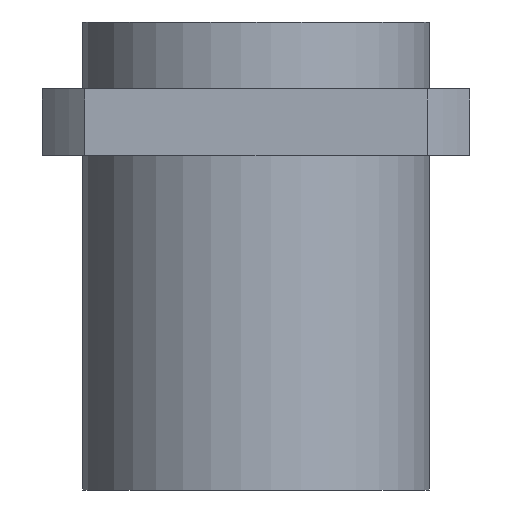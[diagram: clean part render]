
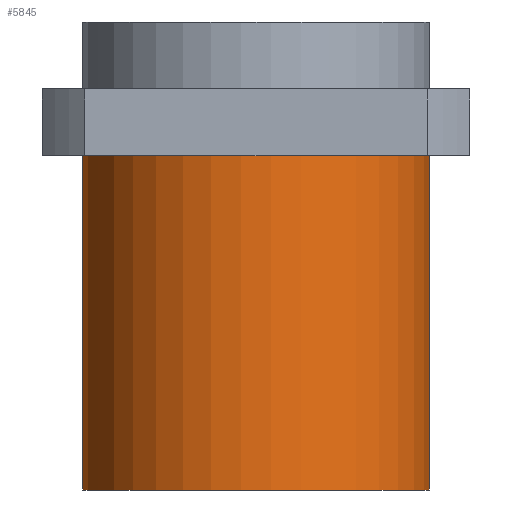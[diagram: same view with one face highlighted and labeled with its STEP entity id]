
A CAD part, front view. The second image highlights one B-rep face of the part: STEP entity #5845.
In plain terms, the highlighted cylindrical face has radius 26 mm (diameter 52 mm), a full revolution.
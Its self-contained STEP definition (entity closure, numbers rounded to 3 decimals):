
#87=CYLINDRICAL_SURFACE('',#6227,26.);
#106=CIRCLE('',#6196,26.);
#128=CIRCLE('',#6228,26.);
#560=ORIENTED_EDGE('',*,*,#2244,.T.);
#561=ORIENTED_EDGE('',*,*,#2089,.T.);
#2089=EDGE_CURVE('',#2935,#2935,#106,.F.);
#2244=EDGE_CURVE('',#3082,#3082,#128,.T.);
#2935=VERTEX_POINT('',#8590);
#3082=VERTEX_POINT('',#9320);
#4804=EDGE_LOOP('',(#560));
#4805=EDGE_LOOP('',(#561));
#5220=FACE_BOUND('',#4804,.T.);
#5221=FACE_BOUND('',#4805,.T.);
#5845=ADVANCED_FACE('',(#5220,#5221),#87,.T.);
#6196=AXIS2_PLACEMENT_3D('',#8589,#6621,#6622);
#6227=AXIS2_PLACEMENT_3D('',#9318,#6791,#6792);
#6228=AXIS2_PLACEMENT_3D('',#9319,#6793,#6794);
#6621=DIRECTION('',(0.,0.,1.));
#6622=DIRECTION('',(0.707,-0.707,0.));
#6791=DIRECTION('',(0.,0.,1.));
#6792=DIRECTION('',(0.707,-0.707,0.));
#6793=DIRECTION('',(0.,0.,1.));
#6794=DIRECTION('',(0.707,-0.707,0.));
#8589=CARTESIAN_POINT('',(0.,0.,-10.));
#8590=CARTESIAN_POINT('',(18.385,-18.385,-10.));
#9318=CARTESIAN_POINT('',(0.,0.,-60.));
#9319=CARTESIAN_POINT('',(0.,0.,-60.));
#9320=CARTESIAN_POINT('',(18.385,-18.385,-60.));
